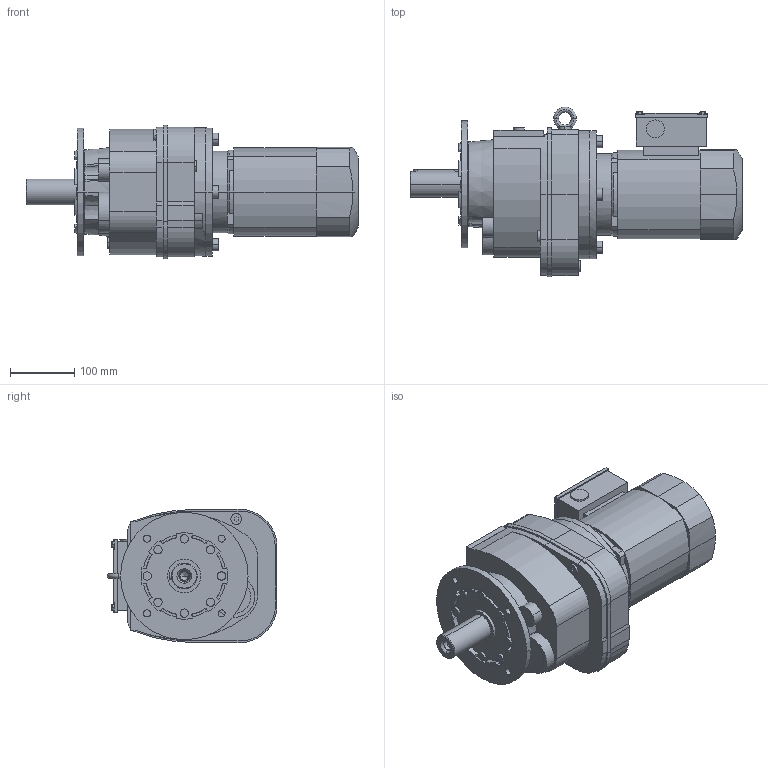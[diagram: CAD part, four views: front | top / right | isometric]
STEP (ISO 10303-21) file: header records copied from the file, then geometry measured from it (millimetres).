
FILE_DESCRIPTION(('STEP AP214'),'1');
FILE_NAME('STEP-File.stp','2018-01-01T00:00:00',(' '),('KEB'),' ','KEB-DRIVE',' ');
FILE_SCHEMA(('AUTOMOTIVE_DESIGN { 1 0 10303 214 1 1 1 1 }'));
Length unit declared in the file: millimetre
Products named in the file (9): g4b; w4_we_40x80; c4_200; cl4; dm80_kkn; kk08; PLUG_M25; ndm80; G43C DM80K4§CAD13
Assembly tree (8 placements, depth 2):
  G43C DM80K4§CAD13
    g4b
    w4_we_40x80
    c4_200
    cl4
    dm80_kkn
    kk08
    PLUG_M25
    ndm80
Bounding box: 518.5 x 265 x 208 mm (x, y, z)
Volume: 11329515.5 mm3; surface area: 612563.9 mm2
Topology: 8 solids, 8 shells, 504 faces, 1399 edges, 1034 vertices
Faces by surface type: plane 284, cylinder 141, cone 66, torus 9, bspline 4
Entity records: 20964 total; most frequent: CARTESIAN_POINT 8489, ORIENTED_EDGE 2794, DIRECTION 2050, EDGE_CURVE 1397, VERTEX_POINT 1034, VECTOR 894, LINE 894, EDGE_LOOP 639
